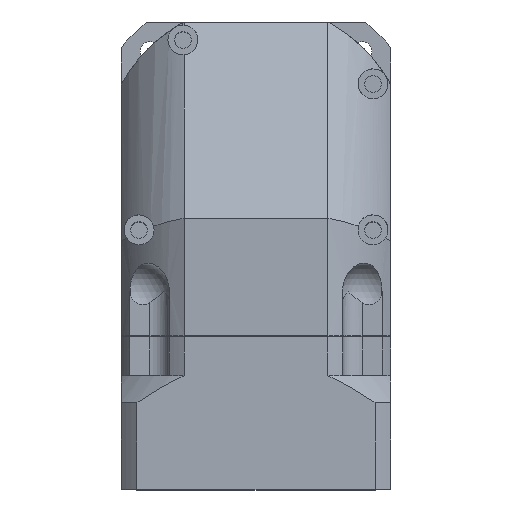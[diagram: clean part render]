
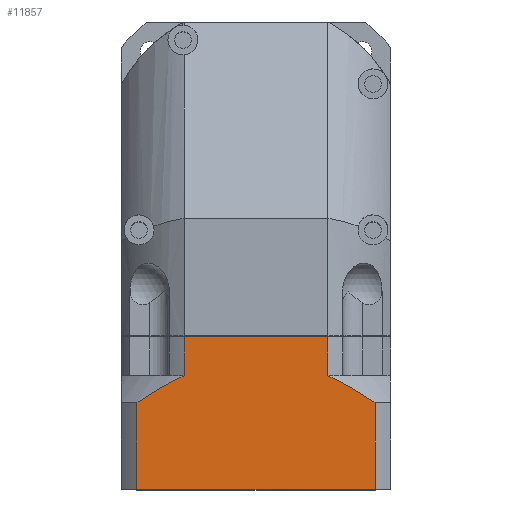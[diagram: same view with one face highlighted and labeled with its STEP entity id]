
A CAD part, top view. The second image highlights one B-rep face of the part: STEP entity #11857.
In plain terms, the highlighted planar face has unit normal (0, 0, 1) as drawn and (0, 0, -1) by its records, which use the part's own axes.
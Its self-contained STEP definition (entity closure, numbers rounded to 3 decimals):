
#10517=DIRECTION('',(-1.,0.,0.));
#10518=VECTOR('',#10517,79.373);
#10519=CARTESIAN_POINT('',(39.686,51.,-45.));
#10520=LINE('',#10519,#10518);
#10649=DIRECTION('',(0.,1.,0.));
#10650=VECTOR('',#10649,29.);
#10651=CARTESIAN_POINT('',(-39.686,22.,-45.));
#10652=LINE('',#10651,#10650);
#10653=CARTESIAN_POINT('',(-24.,13.,-45.));
#10654=CARTESIAN_POINT('',(-25.183,13.557,-45.));
#10655=CARTESIAN_POINT('',(-27.606,14.761,-45.));
#10656=CARTESIAN_POINT('',(-31.377,16.829,-45.));
#10657=CARTESIAN_POINT('',(-35.365,19.203,-45.));
#10658=CARTESIAN_POINT('',(-38.217,21.028,-45.));
#10659=CARTESIAN_POINT('',(-39.686,22.,-45.));
#10661=DIRECTION('',(0.,1.,0.));
#10662=VECTOR('',#10661,13.);
#10663=CARTESIAN_POINT('',(24.,0.,-45.));
#10664=LINE('',#10663,#10662);
#10665=CARTESIAN_POINT('',(39.686,22.,-45.));
#10666=CARTESIAN_POINT('',(38.211,21.024,-45.));
#10667=CARTESIAN_POINT('',(35.349,19.193,-45.));
#10668=CARTESIAN_POINT('',(31.35,16.813,-45.));
#10669=CARTESIAN_POINT('',(27.582,14.749,-45.));
#10670=CARTESIAN_POINT('',(25.174,13.552,-45.));
#10671=CARTESIAN_POINT('',(24.,13.,-45.));
#10673=DIRECTION('',(0.,1.,0.));
#10674=VECTOR('',#10673,29.);
#10675=CARTESIAN_POINT('',(39.686,22.,-45.));
#10676=LINE('',#10675,#10674);
#10855=DIRECTION('',(-1.,0.,0.));
#10856=VECTOR('',#10855,48.);
#10857=CARTESIAN_POINT('',(24.,0.,-45.));
#10858=LINE('',#10857,#10856);
#10869=DIRECTION('',(0.,1.,0.));
#10870=VECTOR('',#10869,13.);
#10871=CARTESIAN_POINT('',(-24.,0.,-45.));
#10872=LINE('',#10871,#10870);
#11321=CARTESIAN_POINT('',(-24.,0.,-45.));
#11323=VERTEX_POINT('',#11321);
#11367=CARTESIAN_POINT('',(24.,0.,-45.));
#11368=VERTEX_POINT('',#11367);
#11409=CARTESIAN_POINT('',(-24.,13.,-45.));
#11410=VERTEX_POINT('',#11409);
#11423=CARTESIAN_POINT('',(24.,13.,-45.));
#11424=VERTEX_POINT('',#11423);
#11426=CARTESIAN_POINT('',(39.686,51.,-45.));
#11428=VERTEX_POINT('',#11426);
#11429=CARTESIAN_POINT('',(-39.686,51.,-45.));
#11431=VERTEX_POINT('',#11429);
#11442=CARTESIAN_POINT('',(39.686,22.,-45.));
#11444=VERTEX_POINT('',#11442);
#11445=CARTESIAN_POINT('',(-39.686,22.,-45.));
#11447=VERTEX_POINT('',#11445);
#11837=CARTESIAN_POINT('',(24.,0.,-45.));
#11838=DIRECTION('',(0.,0.,-1.));
#11839=DIRECTION('',(-1.,0.,0.));
#11840=AXIS2_PLACEMENT_3D('',#11837,#11838,#11839);
#11841=PLANE('',#11840);
#11842=ORIENTED_EDGE('',*,*,#11590,.T.);
#11843=ORIENTED_EDGE('',*,*,#11831,.F.);
#11845=ORIENTED_EDGE('',*,*,#11844,.F.);
#11847=ORIENTED_EDGE('',*,*,#11846,.F.);
#11849=ORIENTED_EDGE('',*,*,#11848,.F.);
#11851=ORIENTED_EDGE('',*,*,#11850,.T.);
#11853=ORIENTED_EDGE('',*,*,#11852,.F.);
#11854=ORIENTED_EDGE('',*,*,#11812,.T.);
#11855=EDGE_LOOP('',(#11842,#11843,#11845,#11847,#11849,#11851,#11853,#11854));
#11856=FACE_OUTER_BOUND('',#11855,.F.);
#11857=ADVANCED_FACE('',(#11856),#11841,.T.);
#10660=B_SPLINE_CURVE_WITH_KNOTS('',3,(#10653,#10654,#10655,#10656,#10657,
#10658,#10659),.UNSPECIFIED.,.F.,.F.,(4,1,1,1,4),(0.,0.25,0.5,0.75,
1.),.UNSPECIFIED.);
#10672=B_SPLINE_CURVE_WITH_KNOTS('',3,(#10665,#10666,#10667,#10668,#10669,
#10670,#10671),.UNSPECIFIED.,.F.,.F.,(4,1,1,1,4),(0.,0.25,0.5,0.75,
1.),.UNSPECIFIED.);
#11590=EDGE_CURVE('',#11428,#11431,#10520,.T.);
#11812=EDGE_CURVE('',#11444,#11428,#10676,.T.);
#11831=EDGE_CURVE('',#11447,#11431,#10652,.T.);
#11844=EDGE_CURVE('',#11410,#11447,#10660,.T.);
#11846=EDGE_CURVE('',#11323,#11410,#10872,.T.);
#11848=EDGE_CURVE('',#11368,#11323,#10858,.T.);
#11850=EDGE_CURVE('',#11368,#11424,#10664,.T.);
#11852=EDGE_CURVE('',#11444,#11424,#10672,.T.);
